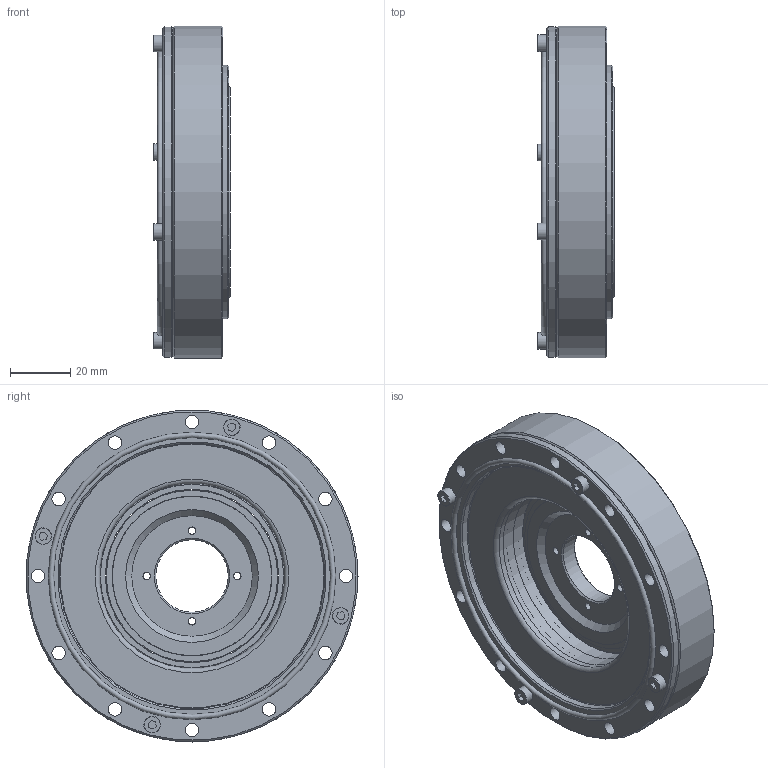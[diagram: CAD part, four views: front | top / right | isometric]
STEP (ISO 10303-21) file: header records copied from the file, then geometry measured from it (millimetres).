
FILE_DESCRIPTION (( 'STEP AP214' ), '1' );
FILE_NAME ('FHD-25-XXX-SH.STEP', '2025-03-19T08:37:28', ( '微软用户' ), ( '微软中国' ), 'SwSTEP 2.0', 'SolidWorks 2016', '' );
FILE_SCHEMA (( 'AUTOMOTIVE_DESIGN' ));
Length unit declared in the file: millimetre
Products named in the file (1): FHD-25-XXX-SH
Bounding box: 25.5 x 110 x 110 mm (x, y, z)
Volume: 119161.2 mm3; surface area: 92650.5 mm2
Topology: 40 solids, 40 shells, 378 faces, 916 edges, 587 vertices
Faces by surface type: cylinder 150, plane 117, cone 59, torus 27, sphere 23, bspline 2
Full cylindrical faces by diameter (mm): 2.5 x16, 3 x4, 3.3 x12, 3.5 x4, 4.5 x24, 5.5 x4, 24 x1, 43.6 x1, 45.212 x1, 48.4 x1, 49.321 x2, 50 x1, 53 x1, 56.8 x1, 57.426 x2, 61.34 x1, 61.341 x2, 62.081 x1, 63 x1, 63.8 x1, 67 x2, 70.6 x1, 81.4 x2, 84 x3, 85 x2, 87 x2, 87.4 x1, 88 x1, 90 x1, 91 x1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
Entity records: 14980 total; most frequent: CARTESIAN_POINT 2558, DIRECTION 1794, ORIENTED_EDGE 1210, AXIS2_PLACEMENT_3D 815, EDGE_LOOP 642, EDGE_CURVE 605, VERTEX_POINT 489, FACE_OUTER_BOUND 480
